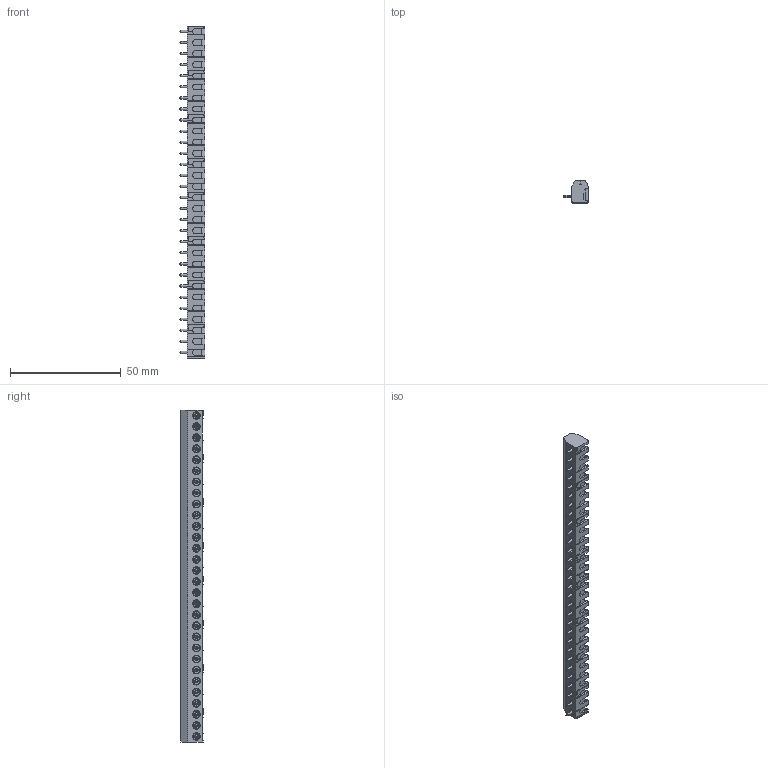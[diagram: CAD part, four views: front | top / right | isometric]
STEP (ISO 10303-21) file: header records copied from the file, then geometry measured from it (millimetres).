
FILE_DESCRIPTION (( 'STEP AP214' ), '1' );
FILE_NAME ('951-DS-30.STEP', '2008-03-11T02:46:01', ( ' ' ), ( '' ), 'SwSTEP 2.0', 'SolidWorks 2007', '' );
FILE_SCHEMA (( 'AUTOMOTIVE_DESIGN' ));
Length unit declared in the file: millimetre
Products named in the file (1): 951-DS-30
Bounding box: 11.7 x 10 x 150 mm (x, y, z)
Volume: 9053.8 mm3; surface area: 8632.5 mm2
Topology: 1 solids, 1 shells, 2330 faces, 7242 edges, 4764 vertices
Faces by surface type: plane 1512, cylinder 578, cone 120, bspline 120
Entity records: 87271 total; most frequent: CARTESIAN_POINT 23161, ORIENTED_EDGE 14484, DIRECTION 12422, EDGE_CURVE 7242, VERTEX_POINT 4764, VECTOR 4556, LINE 4556, AXIS2_PLACEMENT_3D 3933
